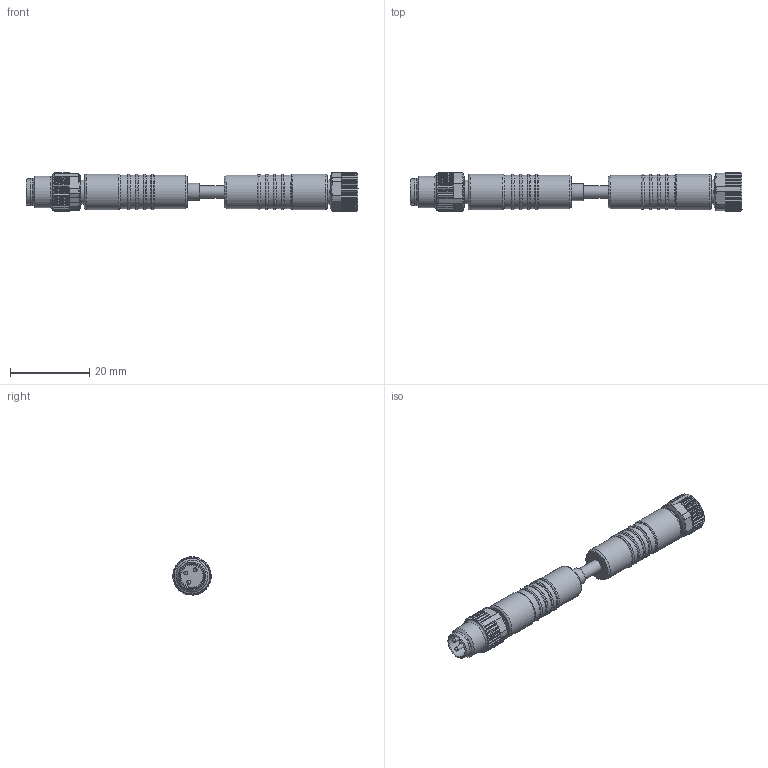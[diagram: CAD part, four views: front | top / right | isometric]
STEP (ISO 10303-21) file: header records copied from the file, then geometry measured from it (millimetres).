
FILE_DESCRIPTION(/* description */ (''),/* implementation_level */ '2;1');
FILE_NAME(/* name */ '79_5032_20_03-001_00-Verbindungsleitung.stp',/* time_stamp */ '2017-04-13T08:24:08+02:00',/* author */ (''),/* organization */ (''),/* preprocessor_version */ 'ST-DEVELOPER v16',/* originating_system */ 'SIEMENS PLM Software NX 11.0',/* authorisation */ '');
FILE_SCHEMA (('AUTOMOTIVE_DESIGN { 1 0 10303 214 3 1 1 1 }'));
Length unit declared in the file: millimetre
Products named in the file (1): jbyc103443B5bzjz
Bounding box: 83.95 x 9.71 x 9.74 mm (x, y, z)
Volume: 4288.5 mm3; surface area: 2970 mm2
Topology: 1 solids, 2 shells, 684 faces, 1871 edges, 1211 vertices
Faces by surface type: cylinder 309, plane 247, cone 59, torus 52, bspline 14, sphere 3
Full cylindrical faces by diameter (mm): 1 x3, 1.1 x3, 1.6 x3, 3.1 x1, 4.3 x1, 5.65 x1, 5.8 x1, 6 x1, 6.05 x1, 6.9 x1, 7.07 x1, 7.1 x1, 8 x1, 8.4 x1, 8.5 x10, 9 x2
Entity records: 23361 total; most frequent: CARTESIAN_POINT 6908, ORIENTED_EDGE 3490, DIRECTION 3323, EDGE_CURVE 1745, AXIS2_PLACEMENT_3D 1311, VERTEX_POINT 1168, EDGE_LOOP 789, LINE 701
